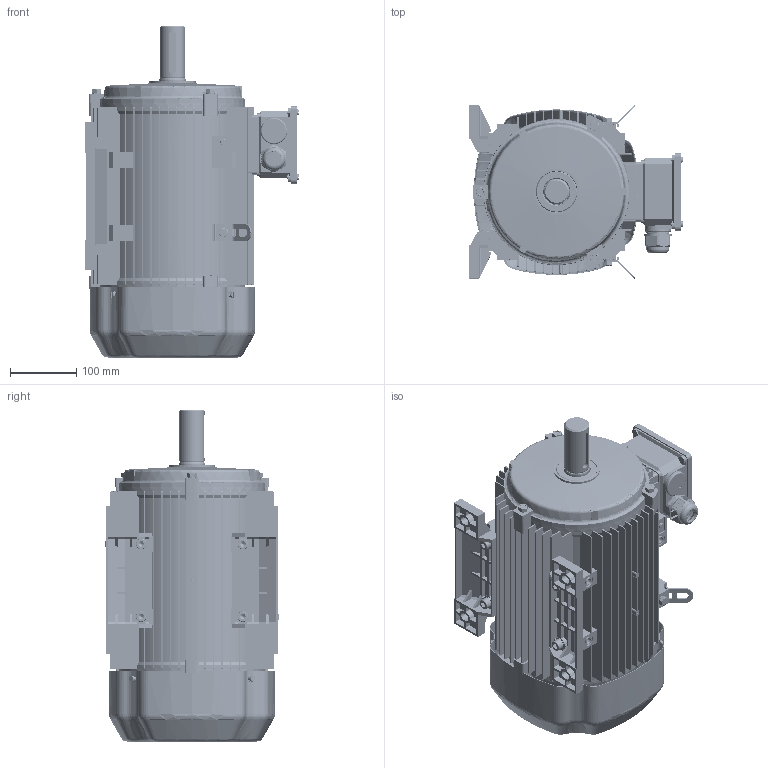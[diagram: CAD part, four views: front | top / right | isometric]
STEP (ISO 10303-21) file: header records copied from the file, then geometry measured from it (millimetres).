
FILE_DESCRIPTION(/* description */ (''),/* implementation_level */ '2;1');
FILE_NAME(/* name */ 'ACA-132M3-6-7.5kW-B3-IE2.stp',/* time_stamp */ '2017-06-24T08:07:16+08:00',/* author */ (''),/* organization */ (''),/* preprocessor_version */ 'ST-DEVELOPER v16',/* originating_system */ 'SIEMENS PLM Software NX 10.0',/* authorisation */ '');
FILE_SCHEMA (('CONFIG_CONTROL_DESIGN'));
Length unit declared in the file: millimetre
Products named in the file (1): ACA-132M3-6-7.5kW-B3-IE2
Bounding box: 323 x 263.33 x 503.01 mm (x, y, z)
Volume: 3580353.3 mm3; surface area: 1861399.1 mm2
Topology: 62 solids, 62 shells, 5204 faces, 14659 edges, 9705 vertices
Faces by surface type: plane 2779, cylinder 1734, bspline 288, cone 202, torus 201
Full cylindrical faces by diameter (mm): 2 x4, 4.2 x4, 4.48 x9, 4.8 x10, 5 x30, 5.3 x5, 5.8 x14, 6 x1, 7.188 x6, 8 x15, 8.58 x2, 9.1 x6, 10 x27, 10.715 x4, 11 x6, 12 x12, 13 x4, 14.785 x2, 16 x8, 17 x4, 17.785 x4, 18 x12, 22 x1, 26 x3, 30 x10, 31 x6, 32 x18, 33 x6, 34 x6, 34.5 x1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
Entity records: 208045 total; most frequent: CARTESIAN_POINT 78141, ORIENTED_EDGE 27922, DIRECTION 25303, EDGE_CURVE 13961, VERTEX_POINT 9417, AXIS2_PLACEMENT_3D 8751, LINE 7801, VECTOR 7801
